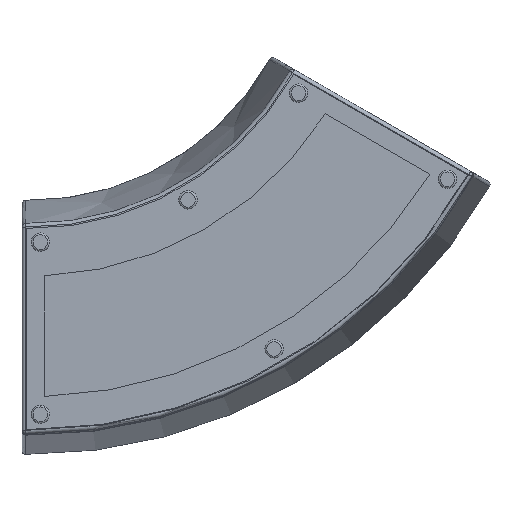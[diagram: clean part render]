
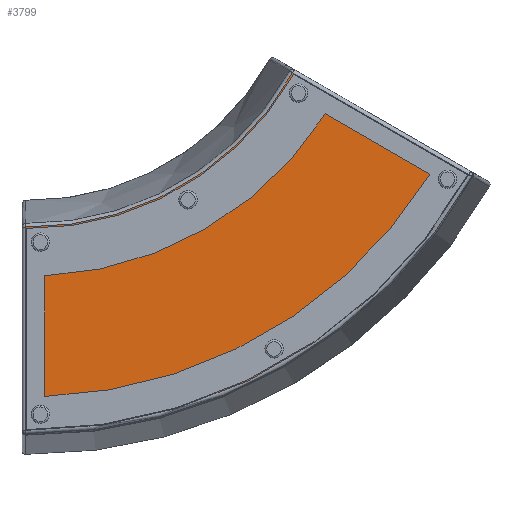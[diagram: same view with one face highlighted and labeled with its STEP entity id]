
A CAD part, front view. The second image highlights one B-rep face of the part: STEP entity #3799.
In plain terms, the highlighted planar face has unit normal (0, -1, 0).
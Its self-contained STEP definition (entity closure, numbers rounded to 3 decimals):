
#321=CIRCLE('',#4369,1375.7);
#333=CIRCLE('',#4385,821.388);
#892=FACE_OUTER_BOUND('',#1140,.T.);
#1140=EDGE_LOOP('',(#3348,#3349,#3350,#3351));
#1397=LINE('',#7492,#1640);
#1408=LINE('',#8175,#1651);
#1640=VECTOR('',#5461,10.);
#1651=VECTOR('',#5580,10.);
#1878=VERTEX_POINT('',#7288);
#1882=VERTEX_POINT('',#7296);
#1887=VERTEX_POINT('',#7341);
#1900=VERTEX_POINT('',#7484);
#2329=EDGE_CURVE('',#1887,#1878,#321,.T.);
#2347=EDGE_CURVE('',#1882,#1900,#333,.T.);
#2349=EDGE_CURVE('',#1900,#1887,#1397,.T.);
#2416=EDGE_CURVE('',#1878,#1882,#1408,.T.);
#3348=ORIENTED_EDGE('',*,*,#2347,.F.);
#3349=ORIENTED_EDGE('',*,*,#2416,.F.);
#3350=ORIENTED_EDGE('',*,*,#2329,.F.);
#3351=ORIENTED_EDGE('',*,*,#2349,.F.);
#3575=PLANE('',#4449);
#3799=ADVANCED_FACE('',(#892),#3575,.T.);
#4369=AXIS2_PLACEMENT_3D('',#7348,#5422,#5423);
#4385=AXIS2_PLACEMENT_3D('',#7489,#5456,#5457);
#4449=AXIS2_PLACEMENT_3D('',#8185,#5598,#5599);
#5422=DIRECTION('center_axis',(0.,1.,0.));
#5423=DIRECTION('ref_axis',(0.5,0.,-0.866));
#5456=DIRECTION('center_axis',(0.,-1.,0.));
#5457=DIRECTION('ref_axis',(0.5,0.,-0.866));
#5461=DIRECTION('',(0.866,0.,-0.5));
#5580=DIRECTION('',(0.,0.,1.));
#5598=DIRECTION('center_axis',(0.,-1.,0.));
#5599=DIRECTION('ref_axis',(0.,0.,-1.));
#7288=CARTESIAN_POINT('',(-2.,19.,-1384.656));
#7296=CARTESIAN_POINT('',(-2.,19.,-830.314));
#7341=CARTESIAN_POINT('',(1205.853,19.,-687.302));
#7348=CARTESIAN_POINT('Origin',(9.,19.,-9.));
#7484=CARTESIAN_POINT('',(725.779,19.,-410.131));
#7489=CARTESIAN_POINT('Origin',(9.,19.,-9.));
#7492=CARTESIAN_POINT('',(664.599,19.,-374.808));
#8175=CARTESIAN_POINT('',(-2.,19.,-962.963));
#8185=CARTESIAN_POINT('Origin',(9.,19.,-822.173));
